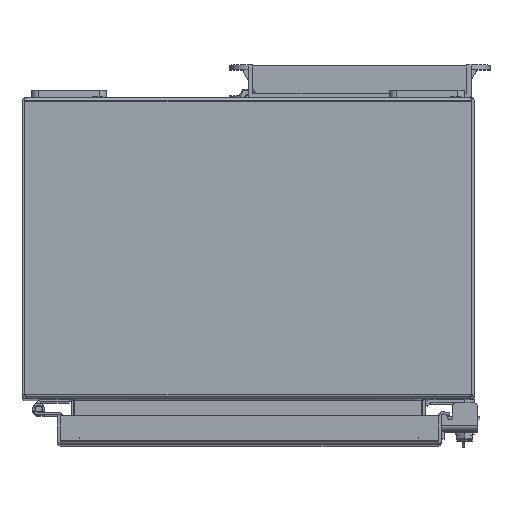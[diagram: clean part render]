
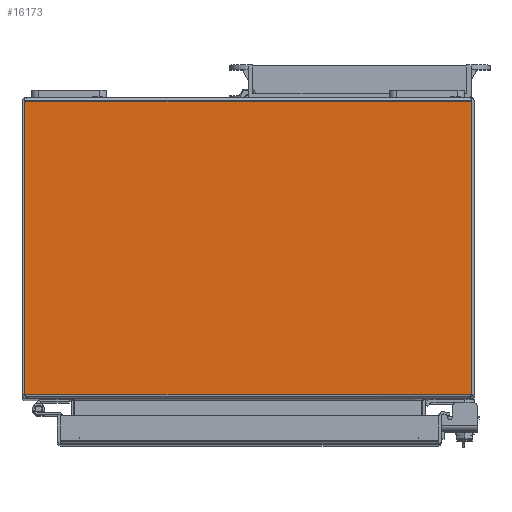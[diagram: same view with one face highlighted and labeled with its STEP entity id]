
A CAD part, top view. The second image highlights one B-rep face of the part: STEP entity #16173.
In plain terms, the highlighted planar face has unit normal (0, 0, 1).
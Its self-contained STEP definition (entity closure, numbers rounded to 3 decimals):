
#1326=LINE('',#24211,#2919);
#1330=LINE('',#24226,#2923);
#1337=LINE('',#24239,#2930);
#1339=LINE('',#24243,#2932);
#2919=VECTOR('',#19789,1000.);
#2923=VECTOR('',#19807,1000.);
#2930=VECTOR('',#19818,1000.);
#2932=VECTOR('',#19824,1000.);
#5986=ORIENTED_EDGE('',*,*,#9825,.T.);
#5987=ORIENTED_EDGE('',*,*,#9816,.T.);
#5988=ORIENTED_EDGE('',*,*,#9808,.T.);
#5989=ORIENTED_EDGE('',*,*,#9823,.T.);
#9808=EDGE_CURVE('',#11846,#11845,#1326,.T.);
#9816=EDGE_CURVE('',#11850,#11846,#1330,.T.);
#9823=EDGE_CURVE('',#11845,#11853,#1337,.T.);
#9825=EDGE_CURVE('',#11853,#11850,#1339,.T.);
#11845=VERTEX_POINT('',#24210);
#11846=VERTEX_POINT('',#24212);
#11850=VERTEX_POINT('',#24227);
#11853=VERTEX_POINT('',#24238);
#13601=EDGE_LOOP('',(#5986,#5987,#5988,#5989));
#14606=FACE_BOUND('',#13601,.T.);
#15468=PLANE('',#17405);
#16173=ADVANCED_FACE('',(#14606),#15468,.T.);
#17405=AXIS2_PLACEMENT_3D('',#24242,#19822,#19823);
#19789=DIRECTION('',(-1.,0.,0.));
#19807=DIRECTION('',(0.,1.,0.));
#19818=DIRECTION('',(0.,-1.,0.));
#19822=DIRECTION('',(0.,0.,1.));
#19823=DIRECTION('',(0.,-1.,0.));
#19824=DIRECTION('',(1.,0.,0.));
#24210=CARTESIAN_POINT('',(-150.569,-2.743,381.));
#24211=CARTESIAN_POINT('',(149.657,-2.743,381.));
#24212=CARTESIAN_POINT('',(150.569,-2.743,381.));
#24226=CARTESIAN_POINT('',(150.569,-2.025,381.));
#24227=CARTESIAN_POINT('',(150.569,-200.457,381.));
#24238=CARTESIAN_POINT('',(-150.569,-200.457,381.));
#24239=CARTESIAN_POINT('',(-150.569,-2.025,381.));
#24242=CARTESIAN_POINT('',(149.657,-2.025,381.));
#24243=CARTESIAN_POINT('',(150.569,-200.457,381.));
